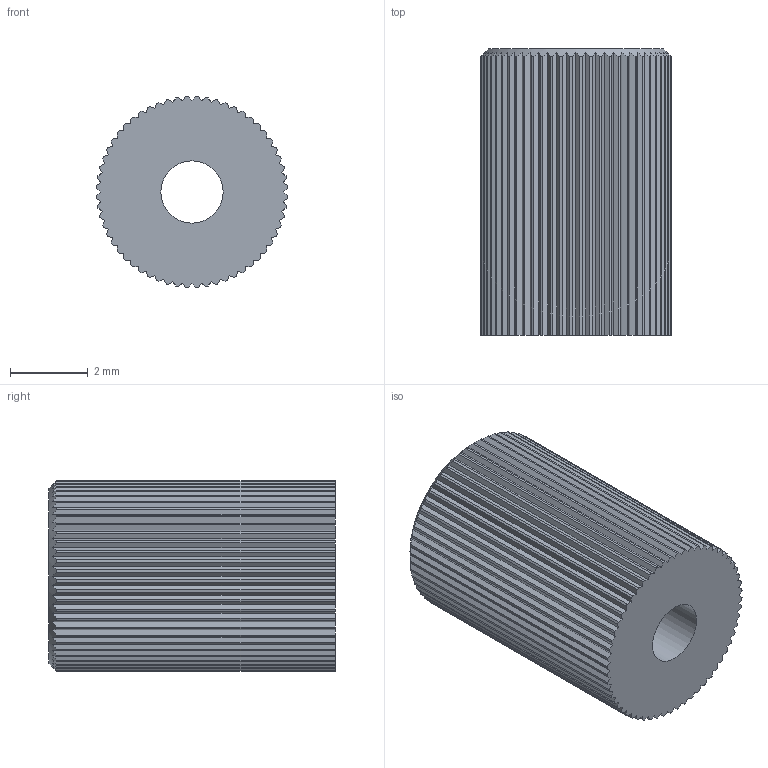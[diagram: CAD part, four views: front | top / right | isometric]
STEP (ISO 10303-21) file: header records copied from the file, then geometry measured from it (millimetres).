
FILE_DESCRIPTION(/* description */ ('STEP AP242 Edition 2','CAx-IF Rec.Pracs.---Representation and Presentation of Product Manufacturing Information (PMI)---4.0---2014-10-13','CAx-IF Rec.Pracs.---3D Tessellated Geometry---0.4---2014-09-14','2;1','CAx-IF Rec.Pracs.---User Defined Attributes---1.5---2016-08-15'),/* implementation_level */ '2;1');
FILE_NAME(/* name */ 'ad16cf33-861b-48ac-a6e5-62d9b5df3395',/* time_stamp */ '2026-11-04T05:15:29Z',/* author */ (''),/* organization */ (''),/* preprocessor_version */ 'ST-DEVELOPER v20',/* originating_system */ 'ONSHAPE BY PTC INC, 1.223',/* authorisation */ ' ');
FILE_SCHEMA (('AP242_MANAGED_MODEL_BASED_3D_ENGINEERING_MIM_LF { 1 0 10303 442 3 1 4 }'));
Length unit declared in the file: metre
Products named in the file (1): SG90 - Micro Servo 9g - Tower Pro.1_Pe‡a
Bounding box: 4.9 x 7.35 x 4.9 mm (x, y, z)
Volume: 119.3 mm3; surface area: 216.2 mm2
Topology: 1 solids, 1 shells, 184 faces, 545 edges, 363 vertices
Faces by surface type: plane 122, cylinder 61, cone 1
Full cylindrical faces by diameter (mm): 1.6 x1
Entity records: 6280 total; most frequent: DIRECTION 1156, CARTESIAN_POINT 1091, ORIENTED_EDGE 1086, EDGE_CURVE 543, AXIS2_PLACEMENT_3D 428, VERTEX_POINT 363, LINE 300, VECTOR 300
